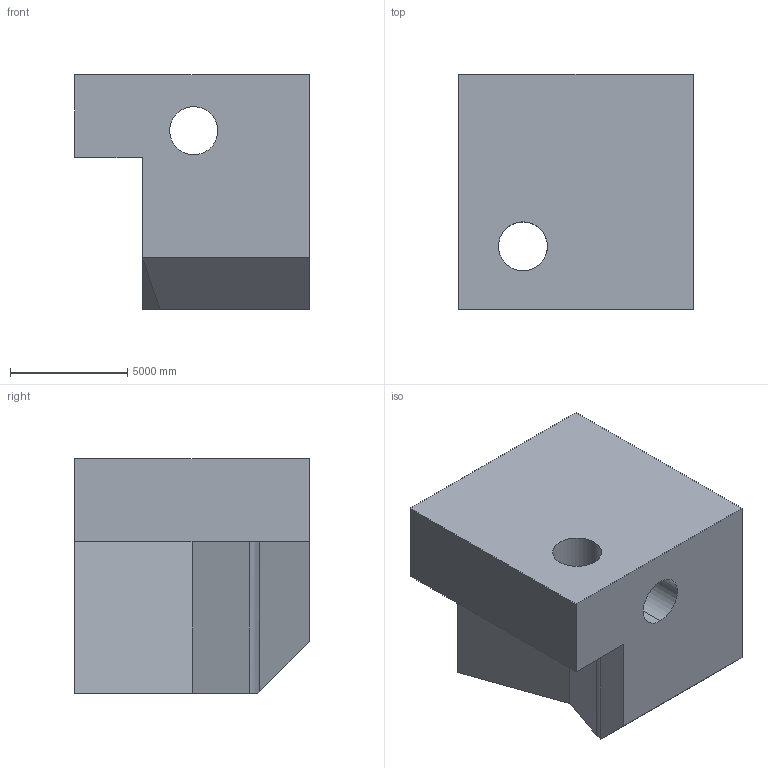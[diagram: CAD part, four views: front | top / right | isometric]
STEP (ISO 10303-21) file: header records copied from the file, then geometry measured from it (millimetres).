
FILE_DESCRIPTION (( 'STEP AP203' ), '1' );
FILE_NAME ('310.STEP', '2022-07-28T14:17:38', ( 'user' ), ( '' ), 'SwSTEP 2.0', 'SolidWorks 2021', '' );
FILE_SCHEMA (( 'CONFIG_CONTROL_DESIGN' ));
Length unit declared in the file: centimetre
Products named in the file (1): 310
Bounding box: 10000 x 10000 x 10000 mm (x, y, z)
Volume: 695253918266.4 mm3; surface area: 626213321.2 mm2
Topology: 1 solids, 1 shells, 15 faces, 42 edges, 28 vertices
Faces by surface type: plane 11, cylinder 4
Entity records: 571 total; most frequent: CARTESIAN_POINT 89, ORIENTED_EDGE 84, DIRECTION 83, EDGE_CURVE 42, VECTOR 31, LINE 31, VERTEX_POINT 28, AXIS2_PLACEMENT_3D 26
